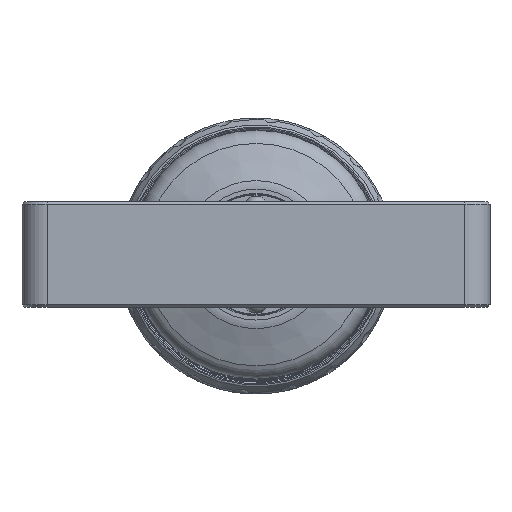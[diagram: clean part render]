
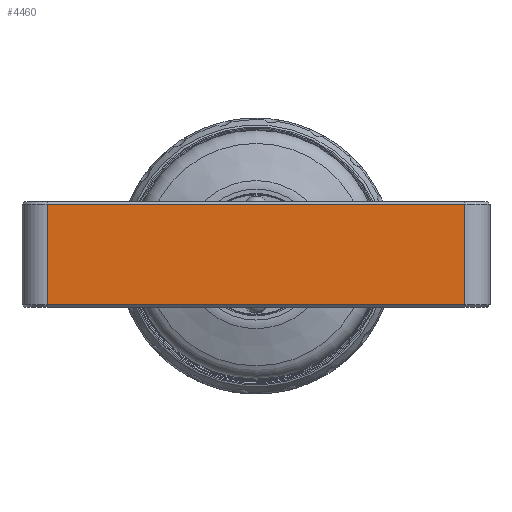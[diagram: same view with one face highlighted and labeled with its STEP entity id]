
A CAD part, top view. The second image highlights one B-rep face of the part: STEP entity #4460.
In plain terms, the highlighted planar face has unit normal (0, 0, 1).
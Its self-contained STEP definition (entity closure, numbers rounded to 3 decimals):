
#735 = VECTOR ( 'NONE', #7187, 1000. ) ;
#821 = DIRECTION ( 'NONE',  ( -1., 0., 0. ) ) ;
#3389 = EDGE_CURVE ( 'NONE', #13371, #16865, #15925, .T. ) ;
#3418 = VERTEX_POINT ( 'NONE', #7310 ) ;
#3890 = DIRECTION ( 'NONE',  ( 0., -1., 0. ) ) ;
#4460 = ADVANCED_FACE ( 'NONE', ( #17529 ), #15335, .F. ) ;
#4843 = ORIENTED_EDGE ( 'NONE', *, *, #15992, .T. ) ;
#6405 = VECTOR ( 'NONE', #821, 1000. ) ;
#7150 = CARTESIAN_POINT ( 'NONE',  ( 180.087, -15.493, 250.232 ) ) ;
#7187 = DIRECTION ( 'NONE',  ( 1., 0., 0. ) ) ;
#7310 = CARTESIAN_POINT ( 'NONE',  ( 14.087, 24.507, 250.232 ) ) ;
#7670 = LINE ( 'NONE', #10928, #14832 ) ;
#7958 = CARTESIAN_POINT ( 'NONE',  ( 14.087, -15.493, 250.232 ) ) ;
#8522 = DIRECTION ( 'NONE',  ( 0., -1., 0. ) ) ;
#8958 = CARTESIAN_POINT ( 'NONE',  ( 180.087, -15.493, 250.232 ) ) ;
#9882 = EDGE_CURVE ( 'NONE', #15345, #3418, #13978, .T. ) ;
#9957 = DIRECTION ( 'NONE',  ( 0., 0., -1. ) ) ;
#10569 = VECTOR ( 'NONE', #3890, 1000. ) ;
#10928 = CARTESIAN_POINT ( 'NONE',  ( 180.087, 25.507, 250.232 ) ) ;
#11149 = EDGE_CURVE ( 'NONE', #15345, #16865, #7670, .T. ) ;
#11928 = CARTESIAN_POINT ( 'NONE',  ( 180.087, 24.507, 250.232 ) ) ;
#12134 = ORIENTED_EDGE ( 'NONE', *, *, #11149, .F. ) ;
#12429 = CARTESIAN_POINT ( 'NONE',  ( 14.087, 25.507, 250.232 ) ) ;
#13192 = EDGE_LOOP ( 'NONE', ( #12134, #16651, #4843, #15232 ) ) ;
#13371 = VERTEX_POINT ( 'NONE', #7958 ) ;
#13978 = LINE ( 'NONE', #11928, #6405 ) ;
#14222 = CARTESIAN_POINT ( 'NONE',  ( 180.087, 25.507, 250.232 ) ) ;
#14328 = AXIS2_PLACEMENT_3D ( 'NONE', #14222, #9957, #8522 ) ;
#14832 = VECTOR ( 'NONE', #14841, 1000. ) ;
#14841 = DIRECTION ( 'NONE',  ( 0., -1., 0. ) ) ;
#15232 = ORIENTED_EDGE ( 'NONE', *, *, #3389, .T. ) ;
#15335 = PLANE ( 'NONE',  #14328 ) ;
#15345 = VERTEX_POINT ( 'NONE', #17161 ) ;
#15925 = LINE ( 'NONE', #7150, #735 ) ;
#15992 = EDGE_CURVE ( 'NONE', #3418, #13371, #18187, .T. ) ;
#16651 = ORIENTED_EDGE ( 'NONE', *, *, #9882, .T. ) ;
#16865 = VERTEX_POINT ( 'NONE', #8958 ) ;
#17161 = CARTESIAN_POINT ( 'NONE',  ( 180.087, 24.507, 250.232 ) ) ;
#17529 = FACE_OUTER_BOUND ( 'NONE', #13192, .T. ) ;
#18187 = LINE ( 'NONE', #12429, #10569 ) ;
